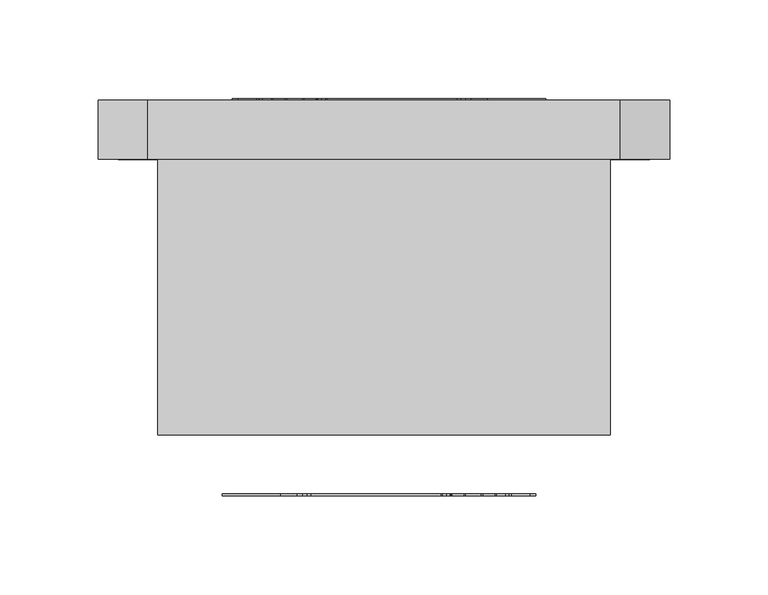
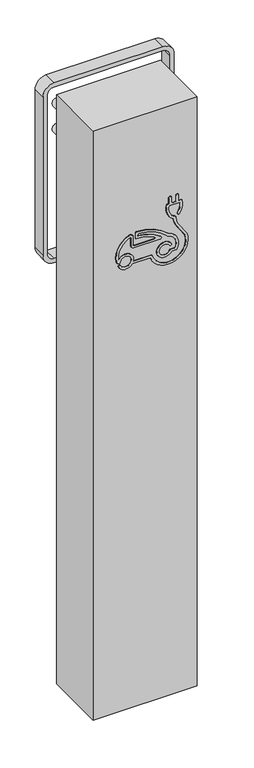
"""IFC4 building model written with IfcOpenShell, lengths in millimetres: proxy geometry, AI_Eqpmt elec_Borne véhicule électrique : Borne simple."""

import ifcopenshell
import ifcopenshell.guid

model = None  # the IFC model being written
_history = None  # IfcOwnerHistory: only IFC2X3 demands one
_inside = {}  # id of a spatial element -> (the spatial element, [elements in it])
_under = {}  # id of a project, library or spatial element -> (it, [spatial elements below it])
_declared = {}  # id of a project -> (the project, [libraries it declares])
_typed = {}  # id of a type object -> (the type object, [elements of that type])
_made_of = {}  # id of a material, layer set ... -> (it, [elements and type objects made of it])


def new_model(schema):
    """Start an empty IFC model of exactly this schema.

    Asked for "IFC4X3", IfcOpenShell would pick the latest addendum, in which some entities
    have other attributes; the version numbers below select the first issue.
    IFC2X3 requires an IfcOwnerHistory on every rooted entity: one is made here for all.
    """
    global model, _history
    if schema == "IFC4X3":
        model = ifcopenshell.file(schema_version=(4, 3, 0, 0))
    else:
        model = ifcopenshell.file(schema=schema)
    _inside.clear()
    _under.clear()
    _declared.clear()
    _typed.clear()
    _made_of.clear()
    _history = None
    if model.schema == "IFC2X3":
        org = make("IfcOrganization", Name="unknown")
        user = make(
            "IfcPersonAndOrganization",
            ThePerson=make("IfcPerson", FamilyName="unknown"),
            TheOrganization=org,
        )
        app = make(
            "IfcApplication",
            ApplicationDeveloper=org,
            Version="unknown",
            ApplicationFullName="unknown",
            ApplicationIdentifier="unknown",
        )
        _history = make(
            "IfcOwnerHistory",
            OwningUser=user,
            OwningApplication=app,
            ChangeAction="ADDED",
            CreationDate=0,
        )
    return model


def make(cls, **values):
    """One entity of the class cls with the attributes given. An attribute that is None is left unset."""
    return model.create_entity(
        cls, **{name: value for name, value in values.items() if value is not None}
    )


def rooted(cls, **values):
    """An entity with a GlobalId (a new one), such as an element, a storey or a relation."""
    return make(cls, GlobalId=ifcopenshell.guid.new(), OwnerHistory=_history, **values)


def si_unit(unit_type, name, prefix=None):
    """IfcSIUnit, for example si_unit("LENGTHUNIT", "METRE", prefix="MILLI")."""
    return make("IfcSIUnit", UnitType=unit_type, Prefix=prefix, Name=name)


def assignment(units):
    """IfcUnitAssignment: the units of a project."""
    return None if units is None else make("IfcUnitAssignment", Units=units)


def point(xyz):
    """IfcCartesianPoint."""
    return None if xyz is None else make("IfcCartesianPoint", Coordinates=xyz)


def direction(xyz):
    """IfcDirection."""
    return None if xyz is None else make("IfcDirection", DirectionRatios=xyz)


def frame(location, z_axis=None, x_axis=None):
    """IfcAxis2Placement3D, a coordinate frame: its origin and axes. An axis left out is left unset."""
    return make(
        "IfcAxis2Placement3D",
        Location=point(location),
        Axis=direction(z_axis),
        RefDirection=direction(x_axis),
    )


def frame_2d(location, x_axis=None):
    """IfcAxis2Placement2D, a coordinate frame in the plane: its origin and x axis."""
    return make(
        "IfcAxis2Placement2D", Location=point(location), RefDirection=direction(x_axis)
    )


def origin():
    """The frame at (0, 0, 0) with its axes left unset."""
    return frame((0.0, 0.0, 0.0))


def origin_with_axes():
    """The frame at (0, 0, 0) with the z axis (0, 0, 1) and the x axis (1, 0, 0) written out."""
    return frame((0.0, 0.0, 0.0), z_axis=(0.0, 0.0, 1.0), x_axis=(1.0, 0.0, 0.0))


def place(relative_to, where):
    """IfcLocalPlacement: puts the frame where relative to a parent placement (None: the world)."""
    return make(
        "IfcLocalPlacement", PlacementRelTo=relative_to, RelativePlacement=where
    )


def context(
    kind, dimensions, precision=None, world=None, true_north=None, identifier=None
):
    """IfcGeometricRepresentationContext, for example the 3D "Model" context."""
    return make(
        "IfcGeometricRepresentationContext",
        ContextIdentifier=identifier,
        ContextType=kind,
        CoordinateSpaceDimension=dimensions,
        Precision=precision,
        WorldCoordinateSystem=world,
        TrueNorth=true_north,
    )


def project(units=None, contexts=None):
    """IfcProject with its units and contexts."""
    return rooted(
        "IfcProject",
        Name="project",
        RepresentationContexts=contexts,
        UnitsInContext=assignment(units),
    )


def spatial(cls, under=None, at=None, **own):
    """A site, building, storey or space (cls), placed at a placement, below another one or the project."""
    s = rooted(cls, ObjectPlacement=at, **own)
    if under is not None:
        _under.setdefault(under.id(), (under, []))[1].append(s)
    return s


def polyline(points):
    """IfcPolyline through the points."""
    return make("IfcPolyline", Points=[point(p) for p in points])


def circle_curve(where, radius):
    """IfcCircle in the frame where."""
    return make("IfcCircle", Position=where, Radius=radius)


def trimmed(basis, trim1, trim2, sense, master):
    """IfcTrimmedCurve: the piece of a basis curve between two trims."""
    return make(
        "IfcTrimmedCurve",
        BasisCurve=basis,
        Trim1=trim1,
        Trim2=trim2,
        SenseAgreement=sense,
        MasterRepresentation=master,
    )


def segment(curve, same_sense, transition):
    """IfcCompositeCurveSegment."""
    return make(
        "IfcCompositeCurveSegment",
        Transition=transition,
        SameSense=same_sense,
        ParentCurve=curve,
    )


def composite_curve(segments, self_intersect=None):
    """IfcCompositeCurve: segments joined end to end."""
    return make("IfcCompositeCurve", Segments=segments, SelfIntersect=self_intersect)


def outline(outer, holes=None, kind="AREA"):
    """IfcArbitraryClosedProfileDef: a profile drawn as a closed curve; with holes, ...WithVoids."""
    if holes is None:
        return make("IfcArbitraryClosedProfileDef", ProfileType=kind, OuterCurve=outer)
    return make(
        "IfcArbitraryProfileDefWithVoids",
        ProfileType=kind,
        OuterCurve=outer,
        InnerCurves=holes,
    )


def extrude(swept, where, along, depth):
    """IfcExtrudedAreaSolid: the profile swept, set in the frame where, extruded along a direction by depth."""
    return make(
        "IfcExtrudedAreaSolid",
        SweptArea=swept,
        Position=where,
        ExtrudedDirection=direction(along),
        Depth=depth,
    )


def shape(context_of_items, identifier, shape_type, items):
    """IfcShapeRepresentation: the items that make up one representation, for example the "Body"."""
    return make(
        "IfcShapeRepresentation",
        ContextOfItems=context_of_items,
        RepresentationIdentifier=identifier,
        RepresentationType=shape_type,
        Items=items,
    )


def source(mapping_origin, context_of_items, identifier, shape_type, items):
    """IfcRepresentationMap: a shape defined once, which mapped items show again and again."""
    return make(
        "IfcRepresentationMap",
        MappingOrigin=mapping_origin,
        MappedRepresentation=shape(context_of_items, identifier, shape_type, items),
    )


def transform(
    local_origin,
    x_axis=None,
    y_axis=None,
    z_axis=None,
    scale=None,
    scale2=None,
    scale3=None,
    uniform=True,
):
    """IfcCartesianTransformationOperator3D, or its non-uniform kind. x_axis, y_axis, z_axis: its Axis1, 2, 3."""
    if uniform:
        return make(
            "IfcCartesianTransformationOperator3D",
            Axis1=direction(x_axis),
            Axis2=direction(y_axis),
            LocalOrigin=point(local_origin),
            Scale=scale,
            Axis3=direction(z_axis),
        )
    return make(
        "IfcCartesianTransformationOperator3DnonUniform",
        Axis1=direction(x_axis),
        Axis2=direction(y_axis),
        LocalOrigin=point(local_origin),
        Scale=scale,
        Axis3=direction(z_axis),
        Scale2=scale2,
        Scale3=scale3,
    )


def mapped(mapping_source, mapping_target):
    """IfcMappedItem: shows the shape of a source again, moved by a transform."""
    return make(
        "IfcMappedItem", MappingSource=mapping_source, MappingTarget=mapping_target
    )


def made_of(thing, what):
    """Note that an element or type object is made of a material, layer set ...; save() writes the relation."""
    if what is not None:
        _made_of.setdefault(what.id(), (what, []))[1].append(thing)
    return thing


def element(
    cls,
    number,
    at=None,
    inside=None,
    cuts=None,
    type_object=None,
    material=None,
    context=None,
    identifier="Body",
    shape_type=None,
    held_by="IfcProductDefinitionShape",
    body=None,
    shapes=None,
    **own,
):
    """One element of the class cls, such as IfcWall. Its Tag is "e" and its number.

    at: its placement. inside: the storey or other place that contains it. cuts: it is an
    opening in that element (IfcRelVoidsElement). A single representation is given by context,
    identifier, shape_type and body (its items); several are given by shapes. held_by: the class
    of the entity that holds the representations. save() writes the other relations.
    """
    e = rooted(cls, Tag="e%d" % number, ObjectPlacement=at, **own)
    if body is not None:
        shapes = [shape(context, identifier, shape_type, body)]
    if shapes is not None:
        e.Representation = make(held_by, Representations=shapes)
    if inside is not None:
        _inside.setdefault(inside.id(), (inside, []))[1].append(e)
    if cuts is not None:
        rooted(
            "IfcRelVoidsElement", RelatingBuildingElement=cuts, RelatedOpeningElement=e
        )
    if type_object is not None:
        _typed.setdefault(type_object.id(), (type_object, []))[1].append(e)
    return made_of(e, material)


def aggregate(whole, parts):
    """IfcRelAggregates: a whole, such as a stair, and the parts it consists of."""
    return rooted("IfcRelAggregates", RelatingObject=whole, RelatedObjects=parts)


def save(model, path):
    """Write the relations noted so far, then the file.

    IfcRelAggregates (storeys below a building ...), IfcRelContainedInSpatialStructure (elements
    in a storey), IfcRelDefinesByType, IfcRelAssociatesMaterial and IfcRelDeclares: one each for
    every whole, place, type object, material and project.
    """
    for whole, parts in _under.values():
        aggregate(whole, parts)
    for where, things in _inside.values():
        rooted(
            "IfcRelContainedInSpatialStructure",
            RelatedElements=things,
            RelatingStructure=where,
        )
    for kind, things in _typed.values():
        rooted("IfcRelDefinesByType", RelatedObjects=things, RelatingType=kind)
    for what, things in _made_of.values():
        rooted("IfcRelAssociatesMaterial", RelatedObjects=things, RelatingMaterial=what)
    for by, libraries in _declared.values():
        rooted("IfcRelDeclares", RelatingContext=by, RelatedDefinitions=libraries)
    model.write(path)


def electrical_equipment_2516d8a8(model_context):
    return source(origin(), model_context, "Body", "SweptSolid", [
        extrude(outline(composite_curve([segment(trimmed(circle_curve(frame_2d((1104.2350413, 41.2105914)), 3.0), [point((1104.2350413, 44.2105914))], [point((1101.2350413, 41.2105914))], True, "CARTESIAN"), True, "CONTINUOUS"), segment(polyline([(1101.2350413, 41.2105914), (1101.2350413, -1.8169512)]), True, "CONTINUOUS"), segment(trimmed(circle_curve(frame_2d((1103.2350413, -1.8169512)), 2.0), [point((1101.2350413, -1.8169512))], [point((1104.9807512, -2.7929107))], True, "CARTESIAN"), True, "CONTINUOUS"), segment(trimmed(circle_curve(frame_2d((1030.3381102, 38.936931)), 85.5155163), [point((1104.9807512, -2.7929107))], [point((1115.8312387, 36.9802694))], True, "CARTESIAN"), True, "CONTINUOUS"), segment(trimmed(circle_curve(frame_2d((1117.8307151, 36.9345078)), 2.0), [point((1115.8312387, 36.9802694))], [point((1117.8307151, 38.9345078))], False, "CARTESIAN"), True, "CONTINUOUS"), segment(polyline([(1117.8307151, 38.9345078), (1128.8769966, 38.9345078)]), True, "CONTINUOUS"), segment(trimmed(circle_curve(frame_2d((1128.8769966, 36.9345078)), 2.0), [point((1128.8769966, 38.9345078))], [point((1130.876993, 36.9383136))], False, "CARTESIAN"), True, "CONTINUOUS"), segment(trimmed(circle_curve(frame_2d((1029.0430041, 36.7445308)), 101.8341733), [point((1130.876993, 36.9383136))], [point((1102.8734961, -33.3928864))], False, "CARTESIAN"), True, "CONTINUOUS"), segment(trimmed(circle_curve(frame_2d((1107.2235383, -37.5253352)), 6.0), [point((1102.8734961, -33.3928864))], [point((1101.4510711, -35.8886855))], True, "CARTESIAN"), True, "CONTINUOUS"), segment(trimmed(circle_curve(frame_2d((1074.6441582, -28.2882049)), 27.8635583), [point((1101.4510711, -35.8886855))], [point((1060.6652242, -52.3914679))], False, "CARTESIAN"), True, "CONTINUOUS"), segment(trimmed(circle_curve(frame_2d((1061.9194551, -50.2288526)), 2.5), [point((1060.6652242, -52.3914679))], [point((1059.4194551, -50.2288526))], False, "CARTESIAN"), True, "CONTINUOUS"), segment(polyline([(1059.4194551, -50.2288526), (1059.4194551, -41.8793163)]), True, "CONTINUOUS"), segment(trimmed(circle_curve(frame_2d((1057.4194551, -41.8793163)), 2.0), [point((1059.4194551, -41.8793163))], [point((1058.4979735, -40.1950367))], True, "CARTESIAN"), True, "CONTINUOUS"), segment(trimmed(circle_curve(frame_2d((1067.9350098, -25.4575896)), 17.5), [point((1058.4979735, -40.1950367))], [point((1077.3930141, -40.1815889))], False, "CARTESIAN"), True, "CONTINUOUS"), segment(trimmed(circle_curve(frame_2d((1076.0418706, -38.0781605)), 2.5), [point((1077.3930141, -40.1815889))], [point((1074.6907272, -35.974732))], False, "CARTESIAN"), True, "CONTINUOUS"), segment(trimmed(circle_curve(frame_2d((1067.9350098, -25.4575896)), 12.5), [point((1074.6907272, -35.974732))], [point((1063.1802212, -37.0179523))], True, "CARTESIAN"), True, "CONTINUOUS"), segment(trimmed(circle_curve(frame_2d((1062.4194551, -38.8676104)), 2.0), [point((1063.1802212, -37.0179523))], [point((1064.4194551, -38.8676104))], False, "CARTESIAN"), True, "CONTINUOUS"), segment(polyline([(1064.4194551, -38.8676104), (1064.4194551, -47.1297407)]), True, "CONTINUOUS"), segment(trimmed(circle_curve(frame_2d((1066.9194551, -47.1297407)), 2.5), [point((1064.4194551, -47.1297407))], [point((1065.9711062, -49.4428845))], True, "CARTESIAN"), True, "CONTINUOUS"), segment(trimmed(circle_curve(frame_2d((1074.6441582, -28.2882049)), 22.8635583), [point((1065.9711062, -49.4428845))], [point((1096.8813221, -33.603357))], True, "CARTESIAN"), True, "CONTINUOUS"), segment(trimmed(circle_curve(frame_2d((1102.7169397, -34.9981929)), 6.0), [point((1096.8813221, -33.603357))], [point((1098.4183335, -30.8122659))], False, "CARTESIAN"), True, "CONTINUOUS"), segment(trimmed(circle_curve(frame_2d((1029.0430041, 36.7445308)), 96.8341733), [point((1098.4183335, -30.8122659))], [point((1125.8006204, 32.8947514))], True, "CARTESIAN"), True, "CONTINUOUS"), segment(trimmed(circle_curve(frame_2d((1124.801411, 32.9345078)), 1.0), [point((1125.8006204, 32.8947514))], [point((1124.801411, 33.9345078))], True, "CARTESIAN"), True, "CONTINUOUS"), segment(polyline([(1124.801411, 33.9345078), (1121.6565675, 33.9345078)]), True, "CONTINUOUS"), segment(trimmed(circle_curve(frame_2d((1121.6565675, 32.9345078)), 1.0), [point((1121.6565675, 33.9345078))], [point((1120.6587208, 33.0000969))], True, "CARTESIAN"), True, "CONTINUOUS"), segment(trimmed(circle_curve(frame_2d((1030.3381102, 38.936931)), 90.5155163), [point((1120.6587208, 33.0000969))], [point((1101.596803, -16.87756))], False, "CARTESIAN"), True, "CONTINUOUS"), segment(trimmed(circle_curve(frame_2d((1099.2350413, -15.0276731)), 3.0), [point((1101.596803, -16.87756))], [point((1096.2350413, -15.0276731))], False, "CARTESIAN"), True, "CONTINUOUS"), segment(polyline([(1096.2350413, -15.0276731), (1096.2350413, 42.2213596)]), True, "CONTINUOUS"), segment(trimmed(circle_curve(frame_2d((1103.2242732, 42.2213596)), 6.9892319), [point((1096.2350413, 42.2213596))], [point((1103.2242732, 49.2105914))], False, "CARTESIAN"), True, "CONTINUOUS"), segment(polyline([(1103.2242732, 49.2105914), (1119.6018357, 49.2105914)]), True, "CONTINUOUS"), segment(trimmed(circle_curve(frame_2d((1119.6018357, 52.2105914)), 3.0), [point((1119.6018357, 49.2105914))], [point((1122.3046644, 53.5124045))], True, "CARTESIAN"), True, "CONTINUOUS"), segment(trimmed(circle_curve(frame_2d((1084.6527022, 35.3773972)), 41.7917306), [point((1122.3046644, 53.5124045))], [point((1081.7302196, 77.0668184))], True, "CARTESIAN"), True, "CONTINUOUS"), segment(trimmed(circle_curve(frame_2d((1081.8334082, 75.5948252)), 1.4756056), [point((1081.7302196, 77.0668184))], [point((1080.9191717, 74.4365578))], True, "CARTESIAN"), True, "CONTINUOUS"), segment(trimmed(circle_curve(frame_2d((1070.1133096, 60.7463607)), 17.4409906), [point((1080.9191717, 74.4365578))], [point((1066.9550341, 43.5937093))], False, "CARTESIAN"), True, "CONTINUOUS"), segment(trimmed(circle_curve(frame_2d((1066.6834088, 42.1185077)), 1.5), [point((1066.9550341, 43.5937093))], [point((1065.1834088, 42.1185077))], True, "CARTESIAN"), True, "CONTINUOUS"), segment(polyline([(1065.1834088, 42.1185077), (1065.1834088, 4.2088678)]), True, "CONTINUOUS"), segment(trimmed(circle_curve(frame_2d((1063.1834088, 4.2088678)), 2.0), [point((1065.1834088, 4.2088678))], [point((1063.7333304, 2.285957))], False, "CARTESIAN"), True, "CONTINUOUS"), segment(trimmed(circle_curve(frame_2d((1074.1494625, -34.1361311)), 37.8822426), [point((1063.7333304, 2.285957))], [point((1087.2036059, -69.6981002))], True, "CARTESIAN"), True, "CONTINUOUS"), segment(polyline([(1087.2036059, -69.6981002), (1114.110824, -51.5489524)]), True, "CONTINUOUS"), segment(trimmed(circle_curve(frame_2d((1134.8401399, -82.2814271)), 37.0700625), [point((1114.110824, -51.5489524))], [point((1129.2169864, -45.6403343))], False, "CARTESIAN"), True, "CONTINUOUS"), segment(trimmed(circle_curve(frame_2d((1127.7000875, -35.756053)), 10.0), [point((1129.2169864, -45.6403343))], [point((1136.1767943, -41.0612807))], True, "CARTESIAN"), True, "CONTINUOUS"), segment(trimmed(circle_curve(frame_2d((1153.076284, -51.6379875)), 19.9363857), [point((1136.1767943, -41.0612807))], [point((1141.640609, -35.3075002))], False, "CARTESIAN"), True, "CONTINUOUS"), segment(trimmed(circle_curve(frame_2d((1161.9438941, -64.3012011)), 35.3957353), [point((1141.640609, -35.3075002))], [point((1170.1644968, -29.8733088))], False, "CARTESIAN"), True, "CONTINUOUS"), segment(trimmed(circle_curve(frame_2d((1169.7, -31.8186218)), 2.0), [point((1170.1644968, -29.8733088))], [point((1171.7, -31.8186218))], False, "CARTESIAN"), True, "CONTINUOUS"), segment(polyline([(1171.7, -31.8186218), (1171.7, -33.6410947)]), True, "CONTINUOUS"), segment(trimmed(circle_curve(frame_2d((1172.7, -33.6410947)), 1.0), [point((1171.7, -33.6410947))], [point((1172.7, -34.6410947))], True, "CARTESIAN"), True, "CONTINUOUS"), segment(polyline([(1172.7, -34.6410947), (1184.7678479, -34.6410947)]), True, "CONTINUOUS"), segment(trimmed(circle_curve(frame_2d((1184.7678479, -37.5981636)), 2.9570689), [point((1184.7678479, -34.6410947))], [point((1184.7678479, -40.5552325))], False, "CARTESIAN"), True, "CONTINUOUS"), segment(polyline([(1184.7678479, -40.5552325), (1172.7, -40.5552325)]), True, "CONTINUOUS"), segment(trimmed(circle_curve(frame_2d((1172.7, -41.5552325)), 1.0), [point((1172.7, -40.5552325))], [point((1171.7, -41.5552325))], True, "CARTESIAN"), True, "CONTINUOUS"), segment(polyline([(1171.7, -41.5552325), (1171.7, -49.3448939)]), True, "CONTINUOUS"), segment(trimmed(circle_curve(frame_2d((1172.7, -49.3448939)), 1.0), [point((1171.7, -49.3448939))], [point((1172.7, -50.3448939))], True, "CARTESIAN"), True, "CONTINUOUS"), segment(polyline([(1172.7, -50.3448939), (1184.7678479, -50.3448939)]), True, "CONTINUOUS"), segment(trimmed(circle_curve(frame_2d((1184.7678479, -53.3019628)), 2.9570689), [point((1184.7678479, -50.3448939))], [point((1184.7678479, -56.2590317))], False, "CARTESIAN"), True, "CONTINUOUS"), segment(polyline([(1184.7678479, -56.2590317), (1172.7, -56.2590317)]), True, "CONTINUOUS"), segment(trimmed(circle_curve(frame_2d((1172.7, -57.2590317)), 1.0), [point((1172.7, -56.2590317))], [point((1171.7, -57.2590317))], True, "CARTESIAN"), True, "CONTINUOUS"), segment(polyline([(1171.7, -57.2590317), (1171.7, -61.7411228)]), True, "CONTINUOUS"), segment(trimmed(circle_curve(frame_2d((1169.7, -61.7411228)), 2.0), [point((1171.7, -61.7411228))], [point((1170.1644968, -63.6864358))], False, "CARTESIAN"), True, "CONTINUOUS"), segment(trimmed(circle_curve(frame_2d((1161.9438941, -29.2585435)), 35.3957353), [point((1170.1644968, -63.6864358))], [point((1141.640609, -58.2522444))], False, "CARTESIAN"), True, "CONTINUOUS"), segment(trimmed(circle_curve(frame_2d((1143.0746296, -56.20442)), 2.5), [point((1141.640609, -58.2522444))], [point((1144.5086502, -54.1565955))], False, "CARTESIAN"), True, "CONTINUOUS"), segment(trimmed(circle_curve(frame_2d((1161.9438941, -29.2585435)), 30.3957353), [point((1144.5086502, -54.1565955))], [point((1164.4337711, -59.5521276))], True, "CARTESIAN"), True, "CONTINUOUS"), segment(trimmed(circle_curve(frame_2d((1164.2315687, -57.091992)), 2.4684313), [point((1164.4337711, -59.5521276))], [point((1166.7, -57.091992))], True, "CARTESIAN"), True, "CONTINUOUS"), segment(polyline([(1166.7, -57.091992), (1166.7, -36.4968483)]), True, "CONTINUOUS"), segment(trimmed(circle_curve(frame_2d((1164.2, -36.4968483)), 2.5), [point((1166.7, -36.4968483))], [point((1164.4021909, -34.0050379))], True, "CARTESIAN"), True, "CONTINUOUS"), segment(trimmed(circle_curve(frame_2d((1161.9438941, -64.3012011)), 30.3957353), [point((1164.4021909, -34.0050379))], [point((1144.5086502, -39.4031491))], True, "CARTESIAN"), True, "CONTINUOUS"), segment(trimmed(circle_curve(frame_2d((1153.076284, -51.6379875)), 14.9363857), [point((1144.5086502, -39.4031491))], [point((1138.9358275, -46.8272588))], True, "CARTESIAN"), True, "CONTINUOUS"), segment(trimmed(circle_curve(frame_2d((1134.2022672, -45.216853)), 5.0), [point((1138.9358275, -46.8272588))], [point((1134.2883033, -50.2161127))], False, "CARTESIAN"), True, "CONTINUOUS"), segment(trimmed(circle_curve(frame_2d((1134.8401399, -82.2814271)), 32.0700625), [point((1134.2883033, -50.2161127))], [point((1116.9067885, -55.6941403))], True, "CARTESIAN"), True, "CONTINUOUS"), segment(polyline([(1116.9067885, -55.6941403), (1089.5121852, -74.1720336)]), True, "CONTINUOUS"), segment(trimmed(circle_curve(frame_2d((1074.1494625, -34.1361311)), 42.8822426), [point((1089.5121852, -74.1720336))], [point((1058.894873, 5.9410972))], False, "CARTESIAN"), True, "CONTINUOUS"), segment(trimmed(circle_curve(frame_2d((1058.1834088, 7.8102732)), 2.0), [point((1058.894873, 5.9410972))], [point((1060.1834088, 7.8102732))], True, "CARTESIAN"), True, "CONTINUOUS"), segment(polyline([(1060.1834088, 7.8102732), (1060.1834088, 45.6427686)]), True, "CONTINUOUS"), segment(trimmed(circle_curve(frame_2d((1058.6834088, 45.6427686)), 1.5), [point((1060.1834088, 45.6427686))], [point((1059.5885806, 46.8388723))], True, "CARTESIAN"), True, "CONTINUOUS"), segment(trimmed(circle_curve(frame_2d((1070.1133096, 60.7463607)), 17.4409906), [point((1059.5885806, 46.8388723))], [point((1062.7400055, 76.5521362))], False, "CARTESIAN"), True, "CONTINUOUS"), segment(trimmed(circle_curve(frame_2d((1063.7968985, 74.2865287)), 2.5), [point((1062.7400055, 76.5521362))], [point((1064.8537915, 72.0209212))], False, "CARTESIAN"), True, "CONTINUOUS"), segment(trimmed(circle_curve(frame_2d((1070.1133096, 60.7463607)), 12.4409906), [point((1064.8537915, 72.0209212))], [point((1072.4048877, 72.9744806))], True, "CARTESIAN"), True, "CONTINUOUS"), segment(trimmed(circle_curve(frame_2d((1072.7734964, 74.9414185)), 2.0011789), [point((1072.4048877, 72.9744806))], [point((1070.7762883, 74.8154154))], False, "CARTESIAN"), True, "CONTINUOUS"), segment(trimmed(circle_curve(frame_2d((1076.9959749, 75.207813)), 6.2320524), [point((1070.7762883, 74.8154154))], [point((1075.8195079, 81.3278132))], False, "CARTESIAN"), True, "CONTINUOUS"), segment(trimmed(circle_curve(frame_2d((1084.6527022, 35.3773972)), 46.7917306), [point((1075.8195079, 81.3278132))], [point((1128.2138474, 52.4622641))], False, "CARTESIAN"), True, "CONTINUOUS"), segment(trimmed(circle_curve(frame_2d((1122.5865548, 50.2552159)), 6.0446244), [point((1128.2138474, 52.4622641))], [point((1122.5865548, 44.2105914))], False, "CARTESIAN"), True, "CONTINUOUS"), segment(polyline([(1122.5865548, 44.2105914), (1104.2350413, 44.2105914)]), True, "CONTINUOUS")], self_intersect=False)), frame((0.0, 100.0, 0.0), z_axis=(0.0, 1.0, 0.0), x_axis=(0.0, 0.0, 1.0)), (0.0, 0.0, 1.0), 1.0),
        extrude(outline(composite_curve([segment(polyline([(1104.2101245, -44.2105914), (1122.561638, -44.2105914)]), True, "CONTINUOUS"), segment(trimmed(circle_curve(frame_2d((1122.561638, -50.2552159)), 6.0446244), [point((1122.561638, -44.2105914))], [point((1128.1889307, -52.4622641))], False, "CARTESIAN"), True, "CONTINUOUS"), segment(trimmed(circle_curve(frame_2d((1084.6277854, -35.3773972)), 46.7917306), [point((1128.1889307, -52.4622641))], [point((1075.7945911, -81.3278132))], False, "CARTESIAN"), True, "CONTINUOUS"), segment(trimmed(circle_curve(frame_2d((1076.9710581, -75.207813)), 6.2320524), [point((1075.7945911, -81.3278132))], [point((1070.7513715, -74.8154154))], False, "CARTESIAN"), True, "CONTINUOUS"), segment(trimmed(circle_curve(frame_2d((1072.7485797, -74.9414185)), 2.0011789), [point((1070.7513715, -74.8154154))], [point((1072.3799709, -72.9744806))], False, "CARTESIAN"), True, "CONTINUOUS"), segment(trimmed(circle_curve(frame_2d((1070.0883928, -60.7463607)), 12.4409906), [point((1072.3799709, -72.9744806))], [point((1064.8288747, -72.0209212))], True, "CARTESIAN"), True, "CONTINUOUS"), segment(trimmed(circle_curve(frame_2d((1063.7719817, -74.2865287)), 2.5), [point((1064.8288747, -72.0209212))], [point((1062.7150887, -76.5521362))], False, "CARTESIAN"), True, "CONTINUOUS"), segment(trimmed(circle_curve(frame_2d((1070.0883928, -60.7463607)), 17.4409906), [point((1062.7150887, -76.5521362))], [point((1059.5636639, -46.8388723))], False, "CARTESIAN"), True, "CONTINUOUS"), segment(trimmed(circle_curve(frame_2d((1058.658492, -45.6427686)), 1.5), [point((1059.5636639, -46.8388723))], [point((1060.158492, -45.6427686))], True, "CARTESIAN"), True, "CONTINUOUS"), segment(polyline([(1060.158492, -45.6427686), (1060.158492, -7.8102732)]), True, "CONTINUOUS"), segment(trimmed(circle_curve(frame_2d((1058.158492, -7.8102732)), 2.0), [point((1060.158492, -7.8102732))], [point((1058.8699562, -5.9410972))], True, "CARTESIAN"), True, "CONTINUOUS"), segment(trimmed(circle_curve(frame_2d((1074.1245457, 34.1361311)), 42.8822426), [point((1058.8699562, -5.9410972))], [point((1089.4872684, 74.1720336))], False, "CARTESIAN"), True, "CONTINUOUS"), segment(polyline([(1089.4872684, 74.1720336), (1116.8818717, 55.6941403)]), True, "CONTINUOUS"), segment(trimmed(circle_curve(frame_2d((1134.8152231, 82.2814271)), 32.0700625), [point((1116.8818717, 55.6941403))], [point((1134.2633865, 50.2161127))], True, "CARTESIAN"), True, "CONTINUOUS"), segment(trimmed(circle_curve(frame_2d((1134.1773504, 45.216853)), 5.0), [point((1134.2633865, 50.2161127))], [point((1138.9109107, 46.8272588))], False, "CARTESIAN"), True, "CONTINUOUS"), segment(trimmed(circle_curve(frame_2d((1153.0513672, 51.6379875)), 14.9363857), [point((1138.9109107, 46.8272588))], [point((1144.4837334, 39.4031491))], True, "CARTESIAN"), True, "CONTINUOUS"), segment(trimmed(circle_curve(frame_2d((1161.9189773, 64.3012011)), 30.3957353), [point((1144.4837334, 39.4031491))], [point((1164.3772741, 34.0050379))], True, "CARTESIAN"), True, "CONTINUOUS"), segment(trimmed(circle_curve(frame_2d((1164.1750832, 36.4968483)), 2.5), [point((1164.3772741, 34.0050379))], [point((1166.6750832, 36.4968483))], True, "CARTESIAN"), True, "CONTINUOUS"), segment(polyline([(1166.6750832, 36.4968483), (1166.6750832, 57.091992)]), True, "CONTINUOUS"), segment(trimmed(circle_curve(frame_2d((1164.2066519, 57.091992)), 2.4684313), [point((1166.6750832, 57.091992))], [point((1164.4088543, 59.5521276))], True, "CARTESIAN"), True, "CONTINUOUS"), segment(trimmed(circle_curve(frame_2d((1161.9189773, 29.2585435)), 30.3957353), [point((1164.4088543, 59.5521276))], [point((1144.4837334, 54.1565955))], True, "CARTESIAN"), True, "CONTINUOUS"), segment(trimmed(circle_curve(frame_2d((1143.0497128, 56.20442)), 2.5), [point((1144.4837334, 54.1565955))], [point((1141.6156922, 58.2522444))], False, "CARTESIAN"), True, "CONTINUOUS"), segment(trimmed(circle_curve(frame_2d((1161.9189773, 29.2585435)), 35.3957353), [point((1141.6156922, 58.2522444))], [point((1170.13958, 63.6864358))], False, "CARTESIAN"), True, "CONTINUOUS"), segment(trimmed(circle_curve(frame_2d((1169.6750832, 61.7411228)), 2.0), [point((1170.13958, 63.6864358))], [point((1171.6750832, 61.7411228))], False, "CARTESIAN"), True, "CONTINUOUS"), segment(polyline([(1171.6750832, 61.7411228), (1171.6750832, 57.2590317)]), True, "CONTINUOUS"), segment(trimmed(circle_curve(frame_2d((1172.6750832, 57.2590317)), 1.0), [point((1171.6750832, 57.2590317))], [point((1172.6750832, 56.2590317))], True, "CARTESIAN"), True, "CONTINUOUS"), segment(polyline([(1172.6750832, 56.2590317), (1184.7429311, 56.2590317)]), True, "CONTINUOUS"), segment(trimmed(circle_curve(frame_2d((1184.7429311, 53.3019628)), 2.9570689), [point((1184.7429311, 56.2590317))], [point((1184.7429311, 50.3448939))], False, "CARTESIAN"), True, "CONTINUOUS"), segment(polyline([(1184.7429311, 50.3448939), (1172.6750832, 50.3448939)]), True, "CONTINUOUS"), segment(trimmed(circle_curve(frame_2d((1172.6750832, 49.3448939)), 1.0), [point((1172.6750832, 50.3448939))], [point((1171.6750832, 49.3448939))], True, "CARTESIAN"), True, "CONTINUOUS"), segment(polyline([(1171.6750832, 49.3448939), (1171.6750832, 41.5552325)]), True, "CONTINUOUS"), segment(trimmed(circle_curve(frame_2d((1172.6750832, 41.5552325)), 1.0), [point((1171.6750832, 41.5552325))], [point((1172.6750832, 40.5552325))], True, "CARTESIAN"), True, "CONTINUOUS"), segment(polyline([(1172.6750832, 40.5552325), (1184.7429311, 40.5552325)]), True, "CONTINUOUS"), segment(trimmed(circle_curve(frame_2d((1184.7429311, 37.5981636)), 2.9570689), [point((1184.7429311, 40.5552325))], [point((1184.7429311, 34.6410947))], False, "CARTESIAN"), True, "CONTINUOUS"), segment(polyline([(1184.7429311, 34.6410947), (1172.6750832, 34.6410947)]), True, "CONTINUOUS"), segment(trimmed(circle_curve(frame_2d((1172.6750832, 33.6410947)), 1.0), [point((1172.6750832, 34.6410947))], [point((1171.6750832, 33.6410947))], True, "CARTESIAN"), True, "CONTINUOUS"), segment(polyline([(1171.6750832, 33.6410947), (1171.6750832, 31.8186218)]), True, "CONTINUOUS"), segment(trimmed(circle_curve(frame_2d((1169.6750832, 31.8186218)), 2.0), [point((1171.6750832, 31.8186218))], [point((1170.13958, 29.8733088))], False, "CARTESIAN"), True, "CONTINUOUS"), segment(trimmed(circle_curve(frame_2d((1161.9189773, 64.3012011)), 35.3957353), [point((1170.13958, 29.8733088))], [point((1141.6156922, 35.3075002))], False, "CARTESIAN"), True, "CONTINUOUS"), segment(trimmed(circle_curve(frame_2d((1153.0513672, 51.6379875)), 19.9363857), [point((1141.6156922, 35.3075002))], [point((1136.1518775, 41.0612807))], False, "CARTESIAN"), True, "CONTINUOUS"), segment(trimmed(circle_curve(frame_2d((1127.6751707, 35.756053)), 10.0), [point((1136.1518775, 41.0612807))], [point((1129.1920696, 45.6403343))], True, "CARTESIAN"), True, "CONTINUOUS"), segment(trimmed(circle_curve(frame_2d((1134.8152231, 82.2814271)), 37.0700625), [point((1129.1920696, 45.6403343))], [point((1114.0859072, 51.5489524))], False, "CARTESIAN"), True, "CONTINUOUS"), segment(polyline([(1114.0859072, 51.5489524), (1087.1786891, 69.6981002)]), True, "CONTINUOUS"), segment(trimmed(circle_curve(frame_2d((1074.1245457, 34.1361311)), 37.8822426), [point((1087.1786891, 69.6981002))], [point((1063.7084136, -2.285957))], True, "CARTESIAN"), True, "CONTINUOUS"), segment(trimmed(circle_curve(frame_2d((1063.158492, -4.2088678)), 2.0), [point((1063.7084136, -2.285957))], [point((1065.158492, -4.2088678))], False, "CARTESIAN"), True, "CONTINUOUS"), segment(polyline([(1065.158492, -4.2088678), (1065.158492, -42.1185077)]), True, "CONTINUOUS"), segment(trimmed(circle_curve(frame_2d((1066.658492, -42.1185077)), 1.5), [point((1065.158492, -42.1185077))], [point((1066.9301173, -43.5937093))], True, "CARTESIAN"), True, "CONTINUOUS"), segment(trimmed(circle_curve(frame_2d((1070.0883928, -60.7463607)), 17.4409906), [point((1066.9301173, -43.5937093))], [point((1080.8942549, -74.4365578))], False, "CARTESIAN"), True, "CONTINUOUS"), segment(trimmed(circle_curve(frame_2d((1081.8084914, -75.5948252)), 1.4756056), [point((1080.8942549, -74.4365578))], [point((1081.7053028, -77.0668184))], True, "CARTESIAN"), True, "CONTINUOUS"), segment(trimmed(circle_curve(frame_2d((1084.6277854, -35.3773972)), 41.7917306), [point((1081.7053028, -77.0668184))], [point((1122.2797476, -53.5124045))], True, "CARTESIAN"), True, "CONTINUOUS"), segment(trimmed(circle_curve(frame_2d((1119.5769189, -52.2105914)), 3.0), [point((1122.2797476, -53.5124045))], [point((1119.5769189, -49.2105914))], True, "CARTESIAN"), True, "CONTINUOUS"), segment(polyline([(1119.5769189, -49.2105914), (1103.1993564, -49.2105914)]), True, "CONTINUOUS"), segment(trimmed(circle_curve(frame_2d((1103.1993564, -42.2213596)), 6.9892319), [point((1103.1993564, -49.2105914))], [point((1096.2101245, -42.2213596))], False, "CARTESIAN"), True, "CONTINUOUS"), segment(polyline([(1096.2101245, -42.2213596), (1096.2101245, 15.0276731)]), True, "CONTINUOUS"), segment(trimmed(circle_curve(frame_2d((1099.2101245, 15.0276731)), 3.0), [point((1096.2101245, 15.0276731))], [point((1101.5718862, 16.87756))], False, "CARTESIAN"), True, "CONTINUOUS"), segment(trimmed(circle_curve(frame_2d((1030.3131934, -38.936931)), 90.5155163), [point((1101.5718862, 16.87756))], [point((1120.633804, -33.0000969))], False, "CARTESIAN"), True, "CONTINUOUS"), segment(trimmed(circle_curve(frame_2d((1121.6316508, -32.9345078)), 1.0), [point((1120.633804, -33.0000969))], [point((1121.6316508, -33.9345078))], True, "CARTESIAN"), True, "CONTINUOUS"), segment(polyline([(1121.6316508, -33.9345078), (1124.7764942, -33.9345078)]), True, "CONTINUOUS"), segment(trimmed(circle_curve(frame_2d((1124.7764942, -32.9345078)), 1.0), [point((1124.7764942, -33.9345078))], [point((1125.7757036, -32.8947514))], True, "CARTESIAN"), True, "CONTINUOUS"), segment(trimmed(circle_curve(frame_2d((1029.0180873, -36.7445308)), 96.8341733), [point((1125.7757036, -32.8947514))], [point((1098.3934167, 30.8122659))], True, "CARTESIAN"), True, "CONTINUOUS"), segment(trimmed(circle_curve(frame_2d((1102.6920229, 34.9981929)), 6.0), [point((1098.3934167, 30.8122659))], [point((1096.8564053, 33.603357))], False, "CARTESIAN"), True, "CONTINUOUS"), segment(trimmed(circle_curve(frame_2d((1074.6192414, 28.2882049)), 22.8635583), [point((1096.8564053, 33.603357))], [point((1065.9461894, 49.4428845))], True, "CARTESIAN"), True, "CONTINUOUS"), segment(trimmed(circle_curve(frame_2d((1066.8945383, 47.1297407)), 2.5), [point((1065.9461894, 49.4428845))], [point((1064.3945383, 47.1297407))], True, "CARTESIAN"), True, "CONTINUOUS"), segment(polyline([(1064.3945383, 47.1297407), (1064.3945383, 38.8676104)]), True, "CONTINUOUS"), segment(trimmed(circle_curve(frame_2d((1062.3945383, 38.8676104)), 2.0), [point((1064.3945383, 38.8676104))], [point((1063.1553044, 37.0179523))], False, "CARTESIAN"), True, "CONTINUOUS"), segment(trimmed(circle_curve(frame_2d((1067.910093, 25.4575896)), 12.5), [point((1063.1553044, 37.0179523))], [point((1074.6658104, 35.974732))], True, "CARTESIAN"), True, "CONTINUOUS"), segment(trimmed(circle_curve(frame_2d((1076.0169538, 38.0781605)), 2.5), [point((1074.6658104, 35.974732))], [point((1077.3680973, 40.1815889))], False, "CARTESIAN"), True, "CONTINUOUS"), segment(trimmed(circle_curve(frame_2d((1067.910093, 25.4575896)), 17.5), [point((1077.3680973, 40.1815889))], [point((1058.4730567, 40.1950367))], False, "CARTESIAN"), True, "CONTINUOUS"), segment(trimmed(circle_curve(frame_2d((1057.3945383, 41.8793163)), 2.0), [point((1058.4730567, 40.1950367))], [point((1059.3945383, 41.8793163))], True, "CARTESIAN"), True, "CONTINUOUS"), segment(polyline([(1059.3945383, 41.8793163), (1059.3945383, 50.2288526)]), True, "CONTINUOUS"), segment(trimmed(circle_curve(frame_2d((1061.8945383, 50.2288526)), 2.5), [point((1059.3945383, 50.2288526))], [point((1060.6403074, 52.3914679))], False, "CARTESIAN"), True, "CONTINUOUS"), segment(trimmed(circle_curve(frame_2d((1074.6192414, 28.2882049)), 27.8635583), [point((1060.6403074, 52.3914679))], [point((1101.4261543, 35.8886855))], False, "CARTESIAN"), True, "CONTINUOUS"), segment(trimmed(circle_curve(frame_2d((1107.1986215, 37.5253352)), 6.0), [point((1101.4261543, 35.8886855))], [point((1102.8485793, 33.3928864))], True, "CARTESIAN"), True, "CONTINUOUS"), segment(trimmed(circle_curve(frame_2d((1029.0180873, -36.7445308)), 101.8341733), [point((1102.8485793, 33.3928864))], [point((1130.8520762, -36.9383136))], False, "CARTESIAN"), True, "CONTINUOUS"), segment(trimmed(circle_curve(frame_2d((1128.8520798, -36.9345078)), 2.0), [point((1130.8520762, -36.9383136))], [point((1128.8520798, -38.9345078))], False, "CARTESIAN"), True, "CONTINUOUS"), segment(polyline([(1128.8520798, -38.9345078), (1117.8057983, -38.9345078)]), True, "CONTINUOUS"), segment(trimmed(circle_curve(frame_2d((1117.8057983, -36.9345078)), 2.0), [point((1117.8057983, -38.9345078))], [point((1115.8063219, -36.9802694))], False, "CARTESIAN"), True, "CONTINUOUS"), segment(trimmed(circle_curve(frame_2d((1030.3131934, -38.936931)), 85.5155163), [point((1115.8063219, -36.9802694))], [point((1104.9558344, 2.7929107))], True, "CARTESIAN"), True, "CONTINUOUS"), segment(trimmed(circle_curve(frame_2d((1103.2101245, 1.8169512)), 2.0), [point((1104.9558344, 2.7929107))], [point((1101.2101245, 1.8169512))], True, "CARTESIAN"), True, "CONTINUOUS"), segment(polyline([(1101.2101245, 1.8169512), (1101.2101245, -41.2105914)]), True, "CONTINUOUS"), segment(trimmed(circle_curve(frame_2d((1104.2101245, -41.2105914)), 3.0), [point((1101.2101245, -41.2105914))], [point((1104.2101245, -44.2105914))], True, "CARTESIAN"), True, "CONTINUOUS")], self_intersect=False)), frame((0.0, -101.0, 0.0), z_axis=(0.0, 1.0, 0.0), x_axis=(0.0, 0.0, 1.0)), (0.0, 0.0, 1.0), 1.0),
        extrude(outline(composite_curve([segment(trimmed(circle_curve(frame_2d((1333.75, -97.5)), 10.0), [point((1343.75, -97.5))], [point((1323.75, -97.5))], False, "CARTESIAN"), True, "CONTINUOUS"), segment(polyline([(1323.75, -97.5), (1323.75, -37.5)]), True, "CONTINUOUS"), segment(trimmed(circle_curve(frame_2d((1333.75, -37.5)), 10.0), [point((1323.75, -37.5))], [point((1343.75, -37.5))], False, "CARTESIAN"), True, "CONTINUOUS"), segment(polyline([(1343.75, -37.5), (1343.75, -97.5)]), True, "CONTINUOUS")], self_intersect=False)), frame((0.0, 70.0151337, 0.0), z_axis=(0.0, 1.0, 0.0), x_axis=(0.0, 0.0, 1.0)), (0.0, 0.0, 1.0), 29.9848663),
        extrude(outline(composite_curve([segment(trimmed(circle_curve(frame_2d((1273.75, -97.5)), 10.0), [point((1283.75, -97.5))], [point((1263.75, -97.5))], False, "CARTESIAN"), True, "CONTINUOUS"), segment(polyline([(1263.75, -97.5), (1263.75, -37.5)]), True, "CONTINUOUS"), segment(trimmed(circle_curve(frame_2d((1273.75, -37.5)), 10.0), [point((1263.75, -37.5))], [point((1283.75, -37.5))], False, "CARTESIAN"), True, "CONTINUOUS"), segment(polyline([(1283.75, -37.5), (1283.75, -97.5)]), True, "CONTINUOUS")], self_intersect=False)), frame((0.0, 70.0151337, 0.0), z_axis=(0.0, 1.0, 0.0), x_axis=(0.0, 0.0, 1.0)), (0.0, 0.0, 1.0), 29.9848663),
        extrude(outline(composite_curve([segment(polyline([(1283.75, 97.5), (1283.75, 37.5)]), True, "CONTINUOUS"), segment(trimmed(circle_curve(frame_2d((1273.75, 37.5)), 10.0), [point((1283.75, 37.5))], [point((1263.75, 37.5))], False, "CARTESIAN"), True, "CONTINUOUS"), segment(polyline([(1263.75, 37.5), (1263.75, 97.5)]), True, "CONTINUOUS"), segment(trimmed(circle_curve(frame_2d((1273.75, 97.5)), 10.0), [point((1263.75, 97.5))], [point((1283.75, 97.5))], False, "CARTESIAN"), True, "CONTINUOUS")], self_intersect=False)), frame((0.0, 70.0151337, 0.0), z_axis=(0.0, 1.0, 0.0), x_axis=(0.0, 0.0, 1.0)), (0.0, 0.0, 1.0), 29.9848663),
        extrude(outline(composite_curve([segment(polyline([(1343.75, 97.5), (1343.75, 37.5)]), True, "CONTINUOUS"), segment(trimmed(circle_curve(frame_2d((1333.75, 37.5)), 10.0), [point((1343.75, 37.5))], [point((1323.75, 37.5))], False, "CARTESIAN"), True, "CONTINUOUS"), segment(polyline([(1323.75, 37.5), (1323.75, 97.5)]), True, "CONTINUOUS"), segment(trimmed(circle_curve(frame_2d((1333.75, 97.5)), 10.0), [point((1323.75, 97.5))], [point((1343.75, 97.5))], False, "CARTESIAN"), True, "CONTINUOUS")], self_intersect=False)), frame((0.0, 70.0151337, 0.0), z_axis=(0.0, 1.0, 0.0), x_axis=(0.0, 0.0, 1.0)), (0.0, 0.0, 1.0), 29.9848663),
        extrude(outline(composite_curve([segment(trimmed(circle_curve(frame_2d((1010.0, -120.0)), 25.0), [point((1010.0, -145.0))], [point((985.0, -120.0))], False, "CARTESIAN"), True, "CONTINUOUS"), segment(polyline([(985.0, -120.0), (985.0, 120.0)]), True, "CONTINUOUS"), segment(trimmed(circle_curve(frame_2d((1010.0, 120.0)), 25.0), [point((985.0, 120.0))], [point((1010.0, 145.0))], False, "CARTESIAN"), True, "CONTINUOUS"), segment(polyline([(1010.0, 145.0), (1380.0, 145.0)]), True, "CONTINUOUS"), segment(trimmed(circle_curve(frame_2d((1380.0, 120.0)), 25.0), [point((1380.0, 145.0))], [point((1405.0, 120.0))], False, "CARTESIAN"), True, "CONTINUOUS"), segment(polyline([(1405.0, 120.0), (1405.0, -120.0)]), True, "CONTINUOUS"), segment(trimmed(circle_curve(frame_2d((1380.0, -120.0)), 25.0), [point((1405.0, -120.0))], [point((1380.0, -145.0))], False, "CARTESIAN"), True, "CONTINUOUS"), segment(polyline([(1380.0, -145.0), (1010.0, -145.0)]), True, "CONTINUOUS")], self_intersect=False), holes=[composite_curve([segment(polyline([(1010.0, -135.0), (1380.0, -135.0)]), True, "CONTINUOUS"), segment(trimmed(circle_curve(frame_2d((1380.0, -120.0)), 15.0), [point((1380.0, -135.0))], [point((1395.0, -120.0))], True, "CARTESIAN"), True, "CONTINUOUS"), segment(polyline([(1395.0, -120.0), (1395.0, 120.0)]), True, "CONTINUOUS"), segment(trimmed(circle_curve(frame_2d((1380.0, 120.0)), 15.0), [point((1395.0, 120.0))], [point((1380.0, 135.0))], True, "CARTESIAN"), True, "CONTINUOUS"), segment(polyline([(1380.0, 135.0), (1010.0, 135.0)]), True, "CONTINUOUS"), segment(trimmed(circle_curve(frame_2d((1010.0, 120.0)), 15.0), [point((1010.0, 135.0))], [point((995.0, 120.0))], True, "CARTESIAN"), True, "CONTINUOUS"), segment(polyline([(995.0, 120.0), (995.0, -120.0)]), True, "CONTINUOUS"), segment(trimmed(circle_curve(frame_2d((1010.0, -120.0)), 15.0), [point((995.0, -120.0))], [point((1010.0, -135.0))], True, "CARTESIAN"), True, "CONTINUOUS")], self_intersect=False)]), frame((0.0, 70.0151337, 0.0), z_axis=(0.0, 1.0, 0.0), x_axis=(0.0, 0.0, 1.0)), (0.0, 0.0, 1.0), 29.9848663),
        extrude(outline(polyline([(115.0, 70.0151337), (115.0, -70.0151337), (-115.0, -70.0151337), (-115.0, 70.0151337), (115.0, 70.0151337)])), origin_with_axes(), (0.0, 0.0, 1.0), 1375.0),
    ])


if __name__ == "__main__":
    model = new_model("IFC4")
    model_context = context("Model", 3, world=origin())
    ifc_project = project(units=[si_unit("LENGTHUNIT", "METRE", prefix="MILLI")], contexts=[model_context])
    site = spatial("IfcSite", under=ifc_project)
    building = spatial("IfcBuilding", under=site)
    placement = place(None, origin())
    electrical_equipment_shape = electrical_equipment_2516d8a8(model_context)
    element("IfcBuildingElementProxy", 1, Name="AI_Eqpmt elec_Borne véhicule électrique : Borne simple", ObjectType="AI_Eqpmt elec_Borne véhicule électrique : Borne simple", at=placement, inside=building, context=model_context, shape_type="MappedRepresentation", body=[
        mapped(electrical_equipment_shape, transform((0.0, 0.0, 0.0), x_axis=(1.0, 0.0, 0.0), y_axis=(0.0, 1.0, 0.0), z_axis=(0.0, 0.0, 1.0))),
    ])
    save(model, "model.ifc")
